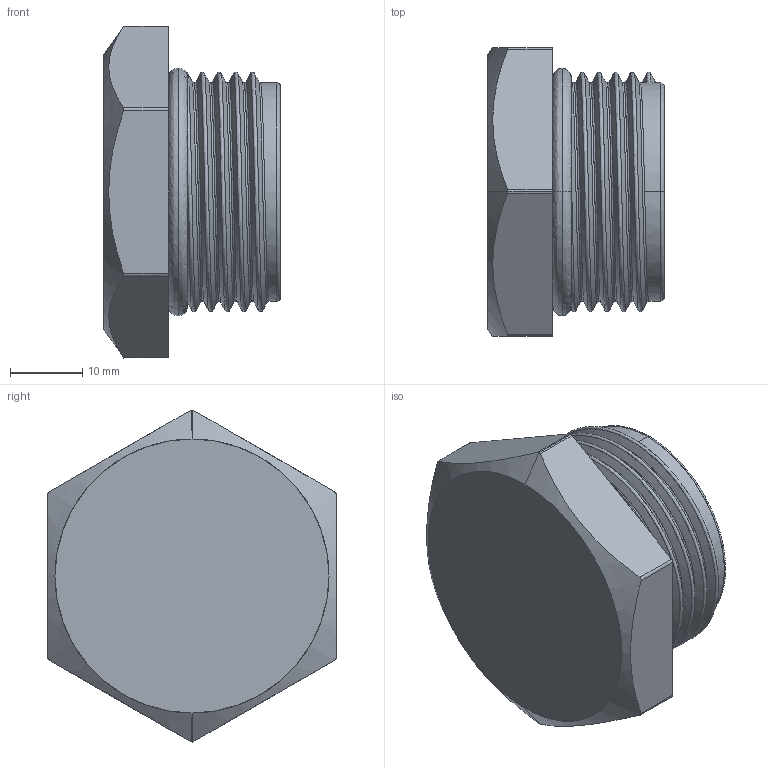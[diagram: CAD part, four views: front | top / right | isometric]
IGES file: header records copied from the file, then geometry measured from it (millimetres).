
Start section: SolidWorks IGES file using analytic representation for surfaces
Global section: file name: C:\Users\federicoz\Desktop\files\00200_0707.IGS; native system: SolidWorks 2011; preprocessor: SolidWorks 2011; author: federicoz; date: 200513.151305; units: millimetre
Bounding box: 24.5 x 40 x 46.03 mm (x, y, z)
Surface area: 8688.5 mm2 (no closed solid volume)
Topology: 0 solids, 0 shells, 58 faces, 1170 edges, 1168 vertices
Faces by surface type: bspline 33, revolution 25
